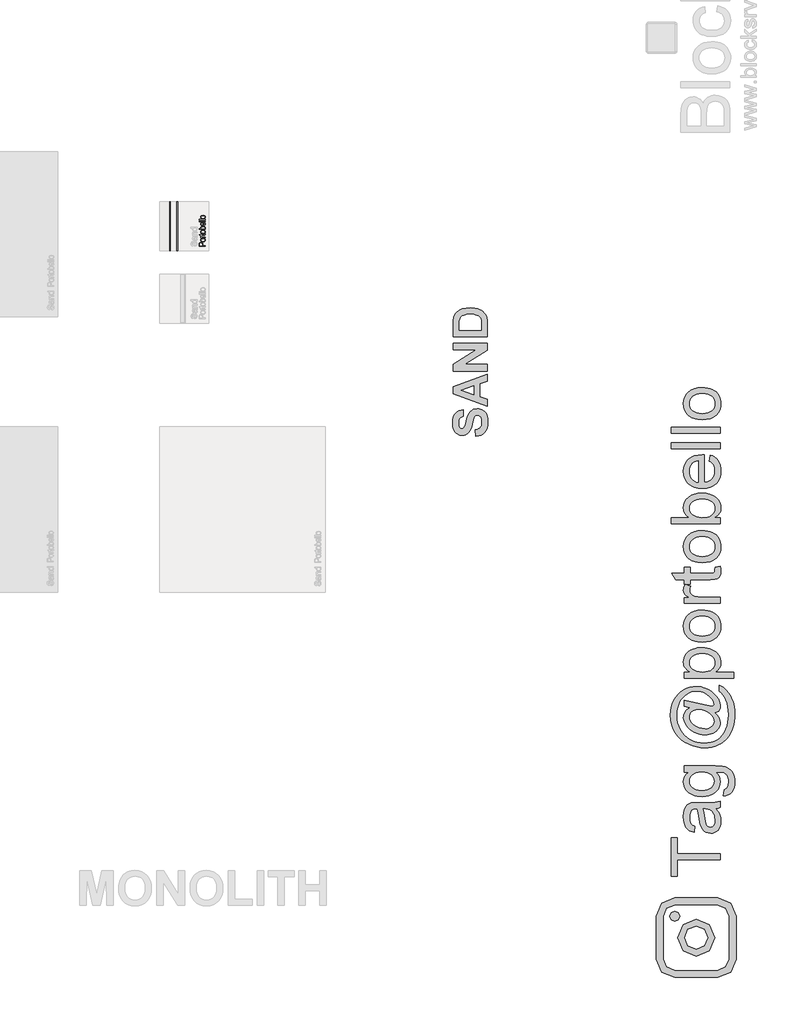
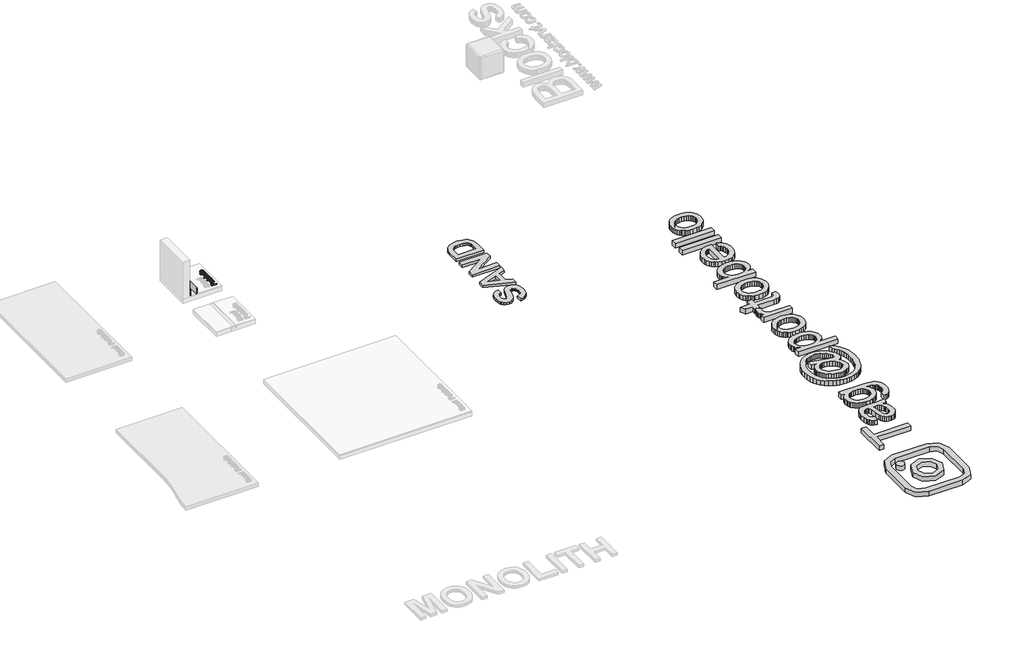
# One storey, part 5 of 6: 7 proxies.
"""IFC4 building model written with IfcOpenShell, lengths in millimetres."""

from ifc_helpers import new_model, si_unit, point, frame, frame_2d, origin, origin_with_axes, place, context, project, spatial, polyline, circle_curve, trimmed, segment, composite_curve, outline, extrude, transform, mapped, element, save
from components import generic_models_d67f6705, skirt_sand_19b2a7f1

model = new_model("IFC4")

# Units and contexts
model_context = context("Model", 3, world=origin())
ifc_project = project(units=[si_unit("LENGTHUNIT", "METRE", prefix="MILLI")], contexts=[model_context])

# Site, building, storey
site = spatial("IfcSite", under=ifc_project)
building = spatial("IfcBuilding", under=site)
storey = spatial("IfcBuildingStorey", under=building, Name="PORTOBELLO - SHOWROOM", Elevation=0.0)

# Proxies
placement = place(None, origin())
element("IfcBuildingElementProxy", 1, Name="RODAPÉ MONOLITH SKIRT SAND 15X60 EXT BOLD", ObjectType="RODAPÉ MONOLITH SKIRT SAND 15X60 EXT BOLD", at=placement, inside=storey, context=model_context, shape_type="SweptSolid", body=[
    extrude(outline(composite_curve([segment(polyline([(170.0, -7899.9813168), (20.0, -7899.9813168), (20.0, -7879.9813168), (154.0, -7879.9813168)]), True, "CONTINUOUS"), segment(trimmed(circle_curve(frame_2d((154.0, -7895.9813168)), 16.0), [point((154.0, -7879.9813168))], [point((170.0, -7895.9813168))], False, "CARTESIAN"), True, "CONTINUOUS"), segment(polyline([(170.0, -7895.9813168), (170.0, -7899.9813168)]), True, "CONTINUOUS")], self_intersect=False)), frame((0.0, -1412.608239, 0.0), z_axis=(0.0, 1.0, 0.0), x_axis=(0.0, 0.0, 1.0)), (0.0, 0.0, 1.0), 800.0),
])
generic_models_shape = generic_models_d67f6705(model_context)
element("IfcBuildingElementProxy", 2, Name="Blks_Instagram1 : Único", ObjectType="Blks_Instagram1 : Único", at=placement, inside=storey, context=model_context, shape_type="MappedRepresentation", body=[
    mapped(generic_models_shape, transform((709.5235049, -12631.2406298, 0.0), x_axis=(-1.0, 0.0, 0.0), y_axis=(0.0, -1.0, 0.0), z_axis=(0.0, 0.0, 1.0))),
])
element("IfcBuildingElementProxy", 3, Name="10mm Arial Narrow", ObjectType="10mm Arial Narrow", at=placement, inside=storey, context=model_context, shape_type="SweptSolid", body=[
    extrude(outline(polyline([(-7307.3219176, -1338.6202008), (-7408.0405213, -1338.6202008), (-7408.0405213, -1307.3233161), (-7406.1622006, -1291.0276146), (-7396.6817574, -1279.5546285), (-7379.6626486, -1275.26495), (-7367.5868231, -1277.0512584), (-7357.9604293, -1282.4101836), (-7351.6591709, -1292.1539725), (-7349.5587514, -1307.0948717), (-7349.5587514, -1328.8732391), (-7307.3219176, -1328.8732391), (-7307.3219176, -1338.6202008)]), holes=[polyline([(-7360.9302067, -1328.8732391), (-7360.9302067, -1305.9018842), (-7365.4610209, -1290.0376888), (-7379.1296116, -1285.0119117), (-7389.2953881, -1287.4867262), (-7395.0953379, -1293.464355), (-7396.6690661, -1306.1303286), (-7396.6690661, -1328.8732391), (-7360.9302067, -1328.8732391)])]), frame((0.0, 0.0, 20.0), z_axis=(0.0, 0.0, 1.0), x_axis=(1.0, 0.0, 0.0)), (0.0, 0.0, 1.0), 20.0),
    extrude(outline(polyline([(-7343.8730238, -1267.142482), (-7360.4637993, -1265.1880131), (-7372.4158841, -1259.3246065), (-7379.6404387, -1250.4660398), (-7382.0486236, -1239.5260906), (-7379.6404387, -1228.7130551), (-7372.4158841, -1219.8291056), (-7360.6541697, -1213.8895509), (-7344.6345052, -1211.9096993), (-7327.4726186, -1213.8546496), (-7315.3301634, -1219.6895007), (-7308.1056088, -1228.5385489), (-7305.697424, -1239.5260906), (-7308.1119545, -1250.3867188), (-7315.3555461, -1259.2611497), (-7327.3139766, -1265.1721489), (-7343.8730238, -1267.142482)]), holes=[polyline([(-7343.8984065, -1257.3955203), (-7331.3466551, -1256.0914835), (-7322.475397, -1252.1793729), (-7317.2021385, -1246.3381761), (-7315.4443856, -1239.2468808), (-7317.2180027, -1232.5268076), (-7322.5388538, -1226.8347343), (-7331.4259761, -1222.9511793), (-7343.8984065, -1221.6566609), (-7356.4120838, -1222.9606978), (-7365.2706505, -1226.8728084), (-7370.5439091, -1232.7140051), (-7372.3016619, -1239.8053005), (-7370.5343906, -1246.5729662), (-7365.2325765, -1252.255521), (-7356.3644912, -1256.1105205), (-7343.8984065, -1257.3955203)])]), frame((0.0, 0.0, 20.0), z_axis=(0.0, 0.0, 1.0), x_axis=(1.0, 0.0, 0.0)), (0.0, 0.0, 1.0), 20.0),
    extrude(outline(polyline([(-7315.4443856, -1140.4319805), (-7305.697424, -1138.8074869), (-7305.697424, -1146.1684736), (-7307.8168805, -1154.4432379), (-7313.6168303, -1158.758299), (-7328.2626555, -1159.9259038), (-7370.6771683, -1159.9259038), (-7370.6771683, -1168.0483719), (-7373.9261555, -1168.0483719), (-7369.0526747, -1169.6728655), (-7370.6771683, -1177.2369138), (-7368.3546501, -1183.3160735), (-7361.869367, -1187.1869372), (-7346.4620605, -1189.1667888), (-7307.3219176, -1189.1667888), (-7307.3219176, -1198.9137504), (-7380.42413, -1198.9137504), (-7380.42413, -1189.1667888), (-7370.7279338, -1189.1667888), (-7379.8149449, -1182.9226415), (-7382.0486236, -1176.5261979), (-7380.42413, -1168.0483719), (-7380.42413, -1159.9259038), (-7396.6690661, -1159.9259038), (-7404.7915341, -1150.1789422), (-7380.42413, -1150.1789422), (-7380.42413, -1140.4319805), (-7370.6771683, -1140.4319805), (-7370.6771683, -1150.1789422), (-7326.0289768, -1150.1789422), (-7318.0334223, -1149.3159299), (-7315.4443856, -1144.6962762), (-7315.4443856, -1140.4319805)])), frame((0.0, 0.0, 20.0), z_axis=(0.0, 0.0, 1.0), x_axis=(1.0, 0.0, 0.0)), (0.0, 0.0, 1.0), 20.0),
    extrude(outline(polyline([(-7343.8730238, -1133.9340061), (-7360.4637993, -1131.9795372), (-7372.4158841, -1126.1161306), (-7379.6404387, -1117.2575639), (-7382.0486236, -1106.3176147), (-7379.6404387, -1095.5045791), (-7372.4158841, -1086.6206297), (-7360.6541697, -1080.6810749), (-7344.6345052, -1078.7012234), (-7327.4726186, -1080.6461737), (-7315.3301634, -1086.4810248), (-7308.1056088, -1095.330073), (-7305.697424, -1106.3176147), (-7308.1119545, -1117.1782429), (-7315.3555461, -1126.0526738), (-7327.3139766, -1131.963673), (-7343.8730238, -1133.9340061)]), holes=[polyline([(-7343.8984065, -1124.1870444), (-7331.3466551, -1122.8830075), (-7322.475397, -1118.970897), (-7317.2021385, -1113.1297002), (-7315.4443856, -1106.0384049), (-7317.2180027, -1099.3183317), (-7322.5388538, -1093.6262584), (-7331.4259761, -1089.7427034), (-7343.8984065, -1088.448185), (-7356.4120838, -1089.7522219), (-7365.2706505, -1093.6643325), (-7370.5439091, -1099.5055292), (-7372.3016619, -1106.5968246), (-7370.5343906, -1113.3644903), (-7365.2325765, -1119.0470451), (-7356.3644912, -1122.9020446), (-7343.8984065, -1124.1870444)])]), frame((0.0, 0.0, 20.0), z_axis=(0.0, 0.0, 1.0), x_axis=(1.0, 0.0, 0.0)), (0.0, 0.0, 1.0), 20.0),
    extrude(outline(polyline([(-7307.3219176, -1055.9583128), (-7307.3219176, -1065.7052745), (-7408.0405213, -1065.7052745), (-7408.0405213, -1055.9583128), (-7372.6316372, -1055.9583128), (-7379.713414, -1048.5592521), (-7382.0486236, -1039.3580188), (-7377.8477847, -1026.4762921), (-7365.1183543, -1017.1989106), (-7344.4314435, -1013.721479), (-7327.9771, -1015.653738), (-7315.7743609, -1021.450515), (-7308.2166582, -1029.8236373), (-7305.697424, -1039.4849323), (-7308.3118434, -1048.8257706), (-7316.0789534, -1055.9583128), (-7307.3219176, -1055.9583128)]), holes=[polyline([(-7344.4314435, -1055.9583128), (-7327.1838902, -1053.8769304), (-7318.4522371, -1047.9881411), (-7315.4443856, -1039.5356978), (-7317.2338669, -1033.5929702), (-7322.6023106, -1028.3546128), (-7344.0253201, -1023.4684407), (-7365.4610209, -1028.1769339), (-7370.5915017, -1033.4216369), (-7372.3016619, -1039.7387595), (-7370.5121807, -1045.7163883), (-7365.143737, -1051.0086839), (-7344.4314435, -1055.9583128)])]), frame((0.0, 0.0, 20.0), z_axis=(0.0, 0.0, 1.0), x_axis=(1.0, 0.0, 0.0)), (0.0, 0.0, 1.0), 20.0),
    extrude(outline(polyline([(-7330.0648281, -961.7376835), (-7328.4403345, -951.9907219), (-7318.5537679, -955.6902522), (-7311.433917, -961.5092391), (-7307.1315472, -969.2128924), (-7305.697424, -978.566422), (-7308.1119545, -990.159976), (-7315.3555461, -999.3040982), (-7327.1616804, -1005.243653), (-7343.2638387, -1007.2235046), (-7359.9307624, -1005.2341345), (-7372.1112916, -999.2660242), (-7379.5642906, -990.2519883), (-7382.0486236, -979.1248417), (-7379.6499572, -968.4418925), (-7372.4539582, -959.6943752), (-7360.7144536, -953.8595241), (-7344.6852706, -951.9145737), (-7341.4362834, -951.9907219), (-7341.4362834, -997.4765429), (-7321.9931255, -991.4735314), (-7317.0815706, -985.5434951), (-7315.4443856, -978.4395084), (-7319.0994962, -968.2610407), (-7330.0648281, -961.7376835)]), holes=[polyline([(-7351.183245, -996.8165924), (-7351.183245, -961.7376835), (-7365.4483295, -966.0019792), (-7370.5883288, -971.8273118), (-7372.3016619, -979.0486935), (-7366.5905516, -991.2577783), (-7351.183245, -996.8165924)])]), frame((0.0, 0.0, 20.0), z_axis=(0.0, 0.0, 1.0), x_axis=(1.0, 0.0, 0.0)), (0.0, 0.0, 1.0), 20.0),
    extrude(outline(polyline([(-7307.3219176, -938.994773), (-7408.0405213, -938.994773), (-7408.0405213, -929.2478113), (-7307.3219176, -929.2478113), (-7307.3219176, -938.994773)])), frame((0.0, 0.0, 20.0), z_axis=(0.0, 0.0, 1.0), x_axis=(1.0, 0.0, 0.0)), (0.0, 0.0, 1.0), 20.0),
    extrude(outline(polyline([(-7307.3219176, -913.0028753), (-7408.0405213, -913.0028753), (-7408.0405213, -903.2559136), (-7307.3219176, -903.2559136), (-7307.3219176, -913.0028753)])), frame((0.0, 0.0, 20.0), z_axis=(0.0, 0.0, 1.0), x_axis=(1.0, 0.0, 0.0)), (0.0, 0.0, 1.0), 20.0),
    extrude(outline(polyline([(-7343.8730238, -891.8844583), (-7360.4637993, -889.9299895), (-7372.4158841, -884.0665828), (-7379.6404387, -875.2080161), (-7382.0486236, -864.268067), (-7379.6404387, -853.4550314), (-7372.4158841, -844.571082), (-7360.6541697, -838.6315272), (-7344.6345052, -836.6516756), (-7327.4726186, -838.596626), (-7315.3301634, -844.4314771), (-7308.1056088, -853.2805253), (-7305.697424, -864.268067), (-7308.1119545, -875.1286952), (-7315.3555461, -884.0031261), (-7327.3139766, -889.9141253), (-7343.8730238, -891.8844583)]), holes=[polyline([(-7343.8984065, -882.1374967), (-7331.3466551, -880.8334598), (-7322.475397, -876.9213492), (-7317.2021385, -871.0801525), (-7315.4443856, -863.9888571), (-7317.2180027, -857.268784), (-7322.5388538, -851.5767107), (-7331.4259761, -847.6931556), (-7343.8984065, -846.3986373), (-7356.4120838, -847.7026741), (-7365.2706505, -851.6147847), (-7370.5439091, -857.4559815), (-7372.3016619, -864.5472768), (-7370.5343906, -871.3149426), (-7365.2325765, -876.9974974), (-7356.3644912, -880.8524969), (-7343.8984065, -882.1374967)])]), frame((0.0, 0.0, 20.0), z_axis=(0.0, 0.0, 1.0), x_axis=(1.0, 0.0, 0.0)), (0.0, 0.0, 1.0), 20.0),
])
element("IfcBuildingElementProxy", 4, Name="550mm Arial", ObjectType="550mm Arial", at=placement, inside=storey, context=model_context, shape_type="SweptSolid", body=[
    extrude(outline(polyline([(-2886.8056867, -4446.5908802), (-2895.7127132, -4339.7065621), (-2869.9832362, -4333.2350506), (-2847.9070319, -4324.1192657), (-2829.4841001, -4312.3592073), (-2814.7144409, -4297.9548753), (-2803.3892959, -4280.8627786), (-2795.2999066, -4261.0394256), (-2790.446273, -4238.4848165), (-2788.8283951, -4213.1989512), (-2790.2592602, -4186.6257422), (-2794.5518555, -4163.549237), (-2801.706181, -4143.9694356), (-2811.7222367, -4127.8863379), (-2823.6519113, -4115.3434354), (-2836.5470938, -4106.3842193), (-2850.4077839, -4101.0086896), (-2865.2339819, -4099.2168464), (-2883.4133621, -4102.1916541), (-2898.7049174, -4111.1160771), (-2911.6305438, -4127.4862176), (-2922.7121373, -4152.7981777), (-2946.5105988, -4245.4869223), (-2958.1227866, -4288.5085562), (-2971.1093009, -4324.6063687), (-2985.4701415, -4353.7803598), (-3001.2053084, -4376.0305296), (-3025.5691573, -4399.1070348), (-3052.4555039, -4415.5902528), (-3081.8643483, -4425.4801836), (-3113.7956904, -4428.7768272), (-3155.1298602, -4422.7228326), (-3193.6805843, -4404.5608488), (-3211.1554049, -4391.1133264), (-3226.4208654, -4374.9867374), (-3239.4769657, -4356.1810818), (-3250.323706, -4334.6963597), (-3264.9367964, -4284.3507841), (-3269.8078265, -4224.6110789), (-3266.772131, -4175.1918689), (-3257.6650443, -4132.2876616), (-3242.4865665, -4095.8984571), (-3221.2366976, -4066.0242554), (-3194.9244367, -4042.5693755), (-3164.5587828, -4025.4381366), (-3130.1397361, -4014.6305385), (-3091.6672964, -4010.1465813), (-3091.6672964, -4117.0308994), (-3128.3913842, -4128.8431474), (-3142.2520744, -4137.9719798), (-3153.111862, -4149.2492843), (-3161.3012814, -4163.1447676), (-3167.1508667, -4180.128136), (-3171.8305349, -4223.3585283), (-3166.8551256, -4268.8678669), (-3160.6358639, -4287.4473675), (-3151.9288976, -4303.2434223), (-3136.9678765, -4317.2302374), (-3117.6925144, -4321.8925091), (-3099.4957376, -4317.6477542), (-3084.1519928, -4304.9134898), (-3075.2406171, -4290.2786537), (-3066.1813709, -4267.9458505), (-3047.6192668, -4200.1863422), (-3028.3091117, -4127.8689414), (-3008.0943367, -4077.2276247), (-2983.6174104, -4041.7386909), (-2951.5208012, -4014.8784391), (-2932.5150854, -4005.0146031), (-2911.4043888, -3997.969006), (-2862.868053, -3992.3325283), (-2839.313143, -3993.9982466), (-2816.5236807, -3998.9954016), (-2794.4996659, -4007.3239933), (-2773.2410987, -4018.9840217), (-2753.7047886, -4033.692793), (-2736.8475451, -4051.1676135), (-2722.6693681, -4071.4084833), (-2711.1702578, -4094.4154024), (-2702.2806278, -4120.3057973), (-2695.9308921, -4149.1970947), (-2690.8511035, -4215.982397), (-2693.9781309, -4265.9278523), (-2703.359213, -4309.7149338), (-2718.9943499, -4347.3436414), (-2740.8835415, -4378.8139753), (-2768.7658398, -4404.3433921), (-2802.3802968, -4424.1493485), (-2841.7269124, -4438.2318446), (-2886.8056867, -4446.5908802)])), origin_with_axes(), (0.0, 0.0, 1.0), 50.0),
    extrude(outline(polyline([(-2699.75813, -3431.1898583), (-2699.75813, -3543.5018957), (-2824.4565011, -3587.4803391), (-2824.4565011, -3799.3005632), (-2699.75813, -3842.7223174), (-2699.75813, -3956.7044223), (-3260.9008, -3752.1211572), (-3260.9008, -3637.99988), (-2699.75813, -3431.1898583)]), holes=[polyline([(-2922.4337927, -3621.7167222), (-3127.2954024, -3693.9471403), (-2922.4337927, -3765.2033523), (-2922.4337927, -3621.7167222)])]), origin_with_axes(), (0.0, 0.0, 1.0), 50.0),
    extrude(outline(polyline([(-2699.75813, -3377.7476993), (-3260.9008, -3377.7476993), (-3260.9008, -3265.7140065), (-2883.1872072, -3030.3736655), (-3260.9008, -3030.3736655), (-3260.9008, -2923.4893474), (-2699.75813, -2923.4893474), (-2699.75813, -3039.0023474), (-3071.9048313, -3270.8633812), (-2699.75813, -3270.8633812), (-2699.75813, -3377.7476993)])), origin_with_axes(), (0.0, 0.0, 1.0), 50.0),
    extrude(outline(polyline([(-3260.9008, -2816.6050293), (-3260.9008, -2608.8208015), (-3258.2217334, -2546.8891329), (-3250.1845337, -2501.6581389), (-3241.4732183, -2477.7726947), (-3229.9523622, -2455.6616973), (-3215.6219656, -2435.3251465), (-3198.4820283, -2416.7630425), (-3157.2174446, -2385.6406393), (-3107.6025235, -2362.9729527), (-3047.5322842, -2349.1427065), (-2974.9017457, -2344.5326244), (-2910.4649759, -2348.8469653), (-2855.4919216, -2361.7899882), (-2826.335327, -2373.4978571), (-2800.1013505, -2387.4672756), (-2776.7899921, -2403.6982438), (-2756.4012517, -2422.1907617), (-2730.8631367, -2456.9142479), (-2711.5877746, -2502.0756557), (-2702.7155412, -2546.019306), (-2699.75813, -2602.6972208), (-2699.75813, -2816.6050293), (-3260.9008, -2816.6050293)]), holes=[polyline([(-3162.9235084, -2709.7207112), (-2797.7354216, -2709.7207112), (-2797.7354216, -2618.7020341), (-2799.0575584, -2574.7235907), (-2803.0239686, -2544.9407208), (-2812.0875639, -2517.819521), (-2825.9178102, -2495.7433166), (-2847.3329462, -2477.9814532), (-2879.1512108, -2463.8032762), (-2922.9208957, -2454.5135259), (-2980.1902927, -2451.4169425), (-3036.6594491, -2454.5135259), (-3078.3067566, -2463.8032762), (-3108.7854879, -2478.6425215), (-3131.7489157, -2498.3875901), (-3147.8233151, -2523.595171), (-3157.6349614, -2554.8219533), (-3161.6013717, -2592.6420229), (-3162.9235084, -2654.8868293), (-3162.9235084, -2709.7207112)])]), origin_with_axes(), (0.0, 0.0, 1.0), 50.0),
])
element("IfcBuildingElementProxy", 5, Name="80mm Arial", ObjectType="80mm Arial", at=placement, inside=storey, context=model_context, shape_type="SweptSolid", body=[
    extrude(outline(polyline([(1101.2364896, -11363.1133966), (401.7713786, -11363.1133966), (401.7713786, -11625.4128133), (301.8477913, -11625.4128133), (301.8477913, -11000.8903927), (401.7713786, -11000.8903927), (401.7713786, -11263.1898093), (1101.2364896, -11263.1898093), (1101.2364896, -11363.1133966)])), origin_with_axes(), (0.0, 0.0, 1.0), 100.0),
    extrude(outline(polyline([(1026.2937991, -10526.2533531), (1067.2292922, -10573.9951647), (1082.3910377, -10598.3966706), (1094.0154491, -10623.1519099), (1108.7990658, -10674.8457774), (1113.726938, -10730.198956), (1110.7628961, -10774.6900796), (1101.8707702, -10813.7044344), (1087.0505604, -10847.2420202), (1066.3022667, -10875.3028372), (1040.9432411, -10897.4599656), (1012.2908355, -10913.286486), (980.3450499, -10922.7823982), (945.1058845, -10925.9477022), (903.6824833, -10921.1662025), (866.0647656, -10906.8217031), (833.8628283, -10884.6950689), (808.6867682, -10856.5671646), (789.6583507, -10823.511388), (775.8993411, -10786.6011371), (760.8717704, -10700.1438145), (745.0635466, -10597.9758498), (726.5230373, -10526.8388428), (704.274426, -10526.2533531), (680.0497868, -10527.9732293), (659.6796219, -10533.1328579), (643.1639313, -10541.7322388), (630.5027151, -10553.7713722), (617.8658942, -10574.5806544), (608.8395936, -10599.9274824), (603.4238133, -10629.811856), (601.6185531, -10664.2337754), (606.4244483, -10723.7585686), (612.4318173, -10746.7878328), (620.8421339, -10765.3283422), (632.3140741, -10780.5632739), (647.5063138, -10793.6758052), (666.4188531, -10804.6659361), (689.051692, -10813.5336665), (676.5612436, -10913.4572538), (621.9155318, -10896.1121194), (598.9838492, -10884.237655), (578.9796154, -10870.2285925), (561.5003062, -10853.4811456), (546.1433975, -10833.3915279), (532.9088892, -10809.9597394), (521.7967813, -10783.1857802), (506.7204197, -10721.7825406), (501.6949658, -10651.3530004), (506.1349299, -10583.8021183), (519.4548222, -10530.2541998), (539.4834514, -10489.8798011), (564.0496263, -10461.8494784), (594.4219081, -10443.2601783), (631.8688579, -10431.2088472), (666.4127543, -10427.5495361), (719.3019968, -10426.3297658), (843.6209911, -10426.3297658), (951.912203, -10425.0612046), (1017.2187077, -10421.2555211), (1060.1302287, -10413.7417357), (1101.2364896, -10401.3488689), (1101.2364896, -10501.2724562), (1066.49743, -10517.2758433), (1026.2937991, -10526.2533531)]), holes=[polyline([(826.4466245, -10526.2533531), (843.0842922, -10593.3895133), (857.0872558, -10687.4582029), (864.7474136, -10739.2984429), (873.2858061, -10773.4276173), (884.3613209, -10795.7982056), (899.6328457, -10812.362687), (917.929401, -10822.608758), (938.0800072, -10826.0241149), (953.6076838, -10824.1639652), (967.793613, -10818.5835158), (980.6377948, -10809.2827669), (992.1402293, -10796.2617183), (1001.6178449, -10779.6423473), (1008.3875704, -10759.5466307), (1013.8033507, -10708.9261611), (1007.826476, -10655.2562656), (1000.3553826, -10630.7632769), (989.8958518, -10607.8315943), (963.475626, -10569.3844327), (932.0299463, -10542.6470666), (899.6328457, -10530.7908988), (854.7452967, -10526.8388428), (826.4466245, -10526.2533531)])]), origin_with_axes(), (0.0, 0.0, 1.0), 100.0),
    extrude(outline(polyline([(1151.1982832, -10313.9157301), (1163.6887317, -10213.9921428), (1180.5215625, -10209.7717374), (1194.9148527, -10202.9654188), (1206.8686021, -10193.5731871), (1216.3828109, -10181.5950422), (1226.1165783, -10162.2128913), (1233.0692693, -10139.5861513), (1238.6314221, -10084.5989038), (1237.0579184, -10053.3971781), (1232.3374071, -10025.9523452), (1224.4698883, -10002.264405), (1213.455362, -9982.3333574), (1199.5987708, -9965.7444806), (1183.2050573, -9952.0830526), (1164.2742214, -9941.3490735), (1142.8062632, -9933.5425433), (1099.821556, -9928.1267629), (1026.2937991, -9926.7118293), (1059.0812262, -9959.9627691), (1082.500817, -9997.0681832), (1096.5525714, -10038.0280717), (1101.2364896, -10082.8424345), (1095.7841161, -10137.6284198), (1079.4269957, -10185.8642384), (1067.1591554, -10207.5258352), (1052.1651283, -10227.5498902), (1013.998514, -10262.6853753), (968.2083349, -10290.5632267), (918.0757734, -10310.4759777), (863.6008295, -10322.4236283), (804.7835031, -10326.4061785), (763.6345502, -10324.6192149), (724.107892, -10319.2583242), (686.2035282, -10310.3235064), (649.9214591, -10297.8147614), (616.4692572, -10281.9211537), (587.0544951, -10262.8317477), (561.6771729, -10240.5465434), (540.3372906, -10215.0655407), (523.4312735, -10186.7973628), (511.355547, -10156.1506326), (504.1101111, -10123.1253503), (501.6949658, -10087.7215159), (507.159537, -10040.9921136), (523.5532506, -9998.5806985), (550.8761065, -9960.4872704), (589.1281047, -9926.7118293), (514.1854143, -9926.7118293), (514.1854143, -9826.788242), (1021.0243912, -9826.788242), (1084.5317346, -9828.4959205), (1138.0491588, -9833.618956), (1181.5766639, -9842.1573485), (1215.1142497, -9854.1110979), (1242.1626573, -9869.7668504), (1266.2226275, -9889.4112519), (1287.2941603, -9913.0443025), (1305.3772558, -9940.6660021), (1319.892523, -9971.9958036), (1330.260571, -10006.7531598), (1336.4813998, -10044.9380707), (1338.5550094, -10086.5505363), (1335.6336594, -10135.5060194), (1326.8696094, -10179.5214326), (1312.2628595, -10218.5967759), (1291.8134095, -10252.7320492), (1265.4968641, -10280.304958), (1233.288828, -10299.6932078), (1195.189301, -10310.8967984), (1151.1982832, -10313.9157301)]), holes=[polyline([(797.9527891, -10226.4825912), (847.3595872, -10223.817393), (889.6063334, -10215.8217983), (924.6930276, -10202.4958072), (952.6196698, -10183.8394197), (973.922959, -10161.1577899), (989.1395942, -10135.7560724), (998.2695753, -10107.6342669), (1001.3129023, -10076.7923735), (998.2878718, -10046.2554227), (989.2127804, -10018.267792), (974.087628, -9992.8294813), (952.9124147, -9969.9404906), (925.2602208, -9951.0279513), (890.7041267, -9937.5189946), (849.2441324, -9929.4136206), (800.880238, -9926.7118293), (754.5350634, -9929.4929057), (714.2521475, -9937.8361349), (680.0314903, -9951.7415169), (651.8730917, -9971.2090518), (629.8867311, -9994.5920494), (614.1821878, -10020.24382), (604.7594618, -10048.1643633), (601.6185531, -10078.3536796), (604.710671, -10108.0367911), (613.9870245, -10135.4145367), (629.4476137, -10160.4869163), (651.0924386, -10183.2539299), (678.8239176, -10202.1664692), (712.544469, -10215.6754259), (752.2540928, -10223.7807999), (797.9527891, -10226.4825912)])]), origin_with_axes(), (0.0, 0.0, 1.0), 100.0),
])
element("IfcBuildingElementProxy", 6, Name="80mm Arial", ObjectType="80mm Arial", at=placement, inside=storey, context=model_context, shape_type="SweptSolid", body=[
    extrude(outline(polyline([(1009.7049223, -8955.7052888), (1047.0054997, -8992.9570753), (1076.1580111, -9034.4536627), (1094.96687, -9078.1458368), (1101.2364896, -9121.9843833), (1099.4434272, -9145.9162776), (1094.0642399, -9169.5066362), (1085.0989278, -9192.7554591), (1072.5474909, -9215.6627463), (1056.2757544, -9237.3319667), (1036.1495436, -9256.8665889), (1012.1688584, -9274.2666129), (984.333699, -9289.5320389), (953.8394402, -9301.9553999), (921.8814569, -9310.8292293), (888.4597493, -9316.1535268), (853.5743172, -9317.9282927), (809.7357707, -9315.1777106), (765.8484334, -9306.9259641), (721.9123053, -9293.1730534), (677.9273864, -9273.9189784), (636.6625554, -9250.5725738), (600.8866909, -9224.5426745), (570.5997931, -9195.8292804), (545.8018618, -9164.4323915), (526.5050948, -9131.9316105), (512.7216898, -9099.9065399), (504.4516468, -9068.3571797), (501.6949658, -9037.28353), (503.2623707, -9014.120091), (507.9645855, -8991.4689555), (526.7734443, -8947.7035953), (540.9532746, -8927.0772786), (558.4142872, -8907.9390818), (603.1798592, -8874.1270476), (514.1854143, -8855.7817015), (514.1854143, -8755.8581142), (880.7020098, -8838.6073349), (965.2076999, -8855.7817015), (978.9911049, -8852.9762297), (990.6765048, -8844.5598142), (998.6538029, -8832.1913429), (1001.3129023, -8817.5297032), (999.3368743, -8801.8556542), (993.4087904, -8783.9128323), (969.6964548, -8741.22087), (947.3319653, -8711.6231423), (921.4179442, -8685.2822016), (891.9543913, -8662.1980477), (858.9413067, -8642.3706806), (823.879008, -8626.4465786), (788.2678125, -8615.0722201), (752.1077204, -8608.247605), (715.3987316, -8605.9727332), (672.9751188, -8608.9001821), (631.9664395, -8617.6825286), (592.3726939, -8632.3197729), (554.1938818, -8652.8119148), (518.5948841, -8679.1162624), (486.7405813, -8711.1901239), (458.6309735, -8749.0334991), (434.2660607, -8792.646388), (414.5850661, -8840.3577054), (400.5272128, -8890.4963657), (392.0925008, -8943.0623691), (389.2809301, -8998.0557154), (392.8487584, -9060.7885047), (403.5522433, -9120.7646129), (421.3913847, -9177.9840401), (446.3661826, -9232.4467864), (478.0009267, -9282.5427548), (515.8199065, -9326.6618484), (559.823122, -9364.8040674), (610.0105732, -9396.9694116), (664.241563, -9422.499205), (720.3753947, -9440.7347718), (778.4120681, -9451.6761119), (838.3515832, -9455.3232252), (900.0414688, -9451.712705), (957.2791926, -9440.8811443), (1010.0647546, -9422.828543), (1058.3981548, -9397.5549013), (1101.4926414, -9365.4444468), (1138.5614624, -9326.8814071), (1169.6046179, -9281.8657822), (1194.6221078, -9230.3975722), (1213.8761828, -9174.2332463), (1227.6290935, -9115.1292739), (1235.88084, -9053.0856549), (1238.6314221, -8988.1023893), (1235.8991365, -8919.8562381), (1227.7022798, -8857.3917983), (1214.0408518, -8800.7090701), (1194.9148527, -8749.8080532), (1171.8855884, -8704.8107249), (1146.5143651, -8665.8390622), (1118.8011827, -8632.8930649), (1088.7460412, -8605.9727332), (1088.7460412, -8506.049146), (1118.0571228, -8522.2781905), (1147.6365538, -8543.447305), (1177.4843343, -8569.5564894), (1207.6004644, -8600.6057437), (1236.2711665, -8635.7168333), (1261.7826634, -8674.0115235), (1284.1349551, -8715.4898144), (1303.3280416, -8760.1517058), (1318.73984, -8808.7717521), (1329.7482675, -8862.1245073), (1336.3533239, -8920.2099715), (1338.5550094, -8983.0281447), (1336.6094757, -9041.8759653), (1330.7728746, -9098.3940246), (1321.045206, -9152.5823225), (1307.42647, -9204.4408591), (1289.9105678, -9253.2621675), (1268.4914004, -9298.3387808), (1243.1689678, -9339.6706992), (1213.9432702, -9377.2579227), (1181.5766639, -9410.7650143), (1146.8315054, -9439.8565372), (1109.7077947, -9464.5324914), (1070.2055318, -9484.792877), (1017.657825, -9504.6873314), (963.060904, -9518.897656), (906.4147689, -9527.4238508), (847.7194195, -9530.2659157), (781.9615998, -9526.8749541), (717.7894815, -9516.7020694), (655.2030647, -9499.7472615), (594.2023494, -9476.0105304), (524.6571427, -9439.5515946), (463.7601079, -9396.1399677), (411.5112448, -9345.7756499), (367.9105536, -9288.458641), (333.5435239, -9224.4328952), (308.9956455, -9153.9423665), (294.2669185, -9076.9870549), (289.3573428, -8993.5669605), (292.7970952, -8928.1384788), (303.1163524, -8866.1253541), (320.3151144, -8807.5275863), (344.3933812, -8752.3451756), (375.2901642, -8701.6881128), (412.944475, -8656.6663891), (457.3563135, -8617.2800044), (508.5256798, -8583.5289588), (556.4016662, -8560.560683), (606.3512621, -8544.1547718), (658.3744676, -8534.311225), (712.4712828, -8531.0300428), (751.2020409, -8532.7316224), (788.8411046, -8537.8363613), (825.3884738, -8546.3442596), (860.8441485, -8558.2553171), (895.2081288, -8573.5695338), (928.4804145, -8592.2869099), (960.6610059, -8614.4074452), (991.7499027, -8639.9311399), (1039.6502845, -8689.7465611), (1073.8648429, -8741.8063597), (1085.8399383, -8768.6779006), (1094.3935779, -8796.1105358), (1099.5257617, -8824.1042654), (1101.2364896, -8852.6590894), (1098.3578316, -8885.9832154), (1089.7218575, -8912.1838826), (1075.7676846, -8931.8465807), (1056.9344304, -8945.5567994), (1038.1987578, -8951.6068604), (1009.7049223, -8955.7052888)]), holes=[polyline([(855.1356232, -9218.0047054), (887.8498641, -9215.8152176), (916.7096306, -9209.2467543), (941.7149229, -9198.2993154), (962.8657408, -9182.9729009), (979.686374, -9164.8166192), (991.7011119, -9145.3795786), (998.9099547, -9124.6617792), (1001.3129023, -9102.6632209), (997.0681015, -9071.6078677), (984.333699, -9038.9424176), (963.2560673, -9006.2281768), (933.9815788, -8975.0264512), (896.1199071, -8947.3376642), (849.2807255, -8925.1622391), (797.8552075, -8910.5981811), (746.2345262, -8905.7434951), (713.8069313, -8908.0183668), (685.2216131, -8914.842982), (660.4785715, -8926.2173405), (639.5778065, -8942.1414425), (622.9706332, -8961.334529), (611.1083665, -8982.5158411), (603.9910065, -9005.685379), (601.6185531, -9030.8431425), (605.7413769, -9064.3624318), (618.1098483, -9095.8325069), (639.5778065, -9125.8144622), (670.9990908, -9154.869392), (711.3246987, -9180.6309418), (759.5056276, -9200.7327572), (809.4674212, -9213.6867184), (855.1356232, -9218.0047054)])]), origin_with_axes(), (0.0, 0.0, 1.0), 100.0),
    extrude(outline(polyline([(1326.064561, -8393.6351103), (514.1854143, -8393.6351103), (514.1854143, -8293.711523), (612.157369, -8293.711523), (563.8300676, -8261.1192591), (544.8443421, -8243.3594028), (529.3105666, -8224.6237302), (517.2287413, -8204.3755423), (508.598866, -8182.0781403), (503.4209409, -8157.731524), (501.6949658, -8131.3356936), (504.1101111, -8096.4868546), (511.355547, -8063.7604161), (523.4312735, -8033.1563779), (540.3372906, -8004.6747402), (561.634481, -7978.9375857), (586.8837273, -7956.5669975), (616.0850295, -7937.5629754), (649.2383877, -7921.9255195), (685.2094154, -7909.7156182), (722.8637262, -7900.9942602), (762.2013201, -7895.7614454), (803.222197, -7894.0171738), (847.0790401, -7895.9871029), (888.6793079, -7901.8968903), (928.0230007, -7911.7465359), (965.1101182, -7925.5360397), (998.9709432, -7943.0763374), (1028.6357582, -7964.1783645), (1054.1045632, -7988.842121), (1075.3773581, -8017.067607), (1092.1552993, -8047.470383), (1104.139543, -8078.6660098), (1111.3300893, -8110.6544873), (1113.726938, -8143.4358155), (1112.12294, -8167.0200753), (1107.310946, -8189.372367), (1099.2909559, -8210.4926906), (1088.0629698, -8230.3810462), (1059.00804, -8265.486037), (1023.171187, -8293.711523), (1326.064561, -8293.711523), (1326.064561, -8393.6351103)]), holes=[polyline([(812.3948701, -8293.711523), (860.5514036, -8291.0097316), (901.9748048, -8282.9043576), (936.6650736, -8269.395401), (964.6222101, -8250.4828617), (986.1389591, -8227.715848), (1001.5080656, -8202.6434684), (1010.7295294, -8175.2657229), (1013.8033507, -8145.5826113), (1010.6197501, -8115.4725802), (1001.0689482, -8087.5947288), (985.1509451, -8061.9490571), (962.8657408, -8038.5355652), (933.8961949, -8019.0253384), (897.9251672, -8005.0894621), (854.9526577, -7996.7279363), (804.9786663, -7993.9407611), (757.2368547, -7996.660849), (715.8866398, -8004.8211126), (680.9280215, -8018.4215521), (652.3609998, -8037.4621673), (630.1611794, -8060.2840706), (614.3041648, -8085.2283743), (604.7899561, -8112.2950784), (601.6185531, -8141.4841829), (604.9912182, -8170.5818047), (615.1092132, -8197.9595503), (631.9725384, -8223.6174196), (655.5811935, -8247.5554128), (685.6180385, -8267.748711), (721.7659329, -8282.1724954), (764.0248767, -8290.8267661), (812.3948701, -8293.711523)])]), origin_with_axes(), (0.0, 0.0, 1.0), 100.0),
    extrude(outline(polyline([(807.7109519, -7806.5840349), (731.6826658, -7801.1804522), (697.6114305, -7794.4259739), (666.1688002, -7784.9697043), (637.354775, -7772.8116433), (611.169355, -7757.9517909), (587.6125401, -7740.3901473), (566.6843302, -7720.1267123), (538.2514833, -7682.0454819), (517.9423069, -7640.0121955), (505.7568011, -7594.0268532), (501.6949658, -7544.089455), (506.6411346, -7488.9619339), (521.479641, -7439.1160185), (546.2104849, -7394.5517086), (580.8336663, -7355.2690044), (624.1782058, -7323.2073407), (675.0731238, -7300.3061523), (733.5184202, -7286.5654393), (799.5140952, -7281.9852016), (853.0010251, -7284.0100204), (900.4622895, -7290.0844768), (941.8978884, -7300.2085707), (977.3078218, -7314.3823022), (1007.8935634, -7332.4288046), (1034.856587, -7354.1712111), (1058.1968927, -7379.6095218), (1077.9144805, -7408.7437367), (1093.5824306, -7440.4394693), (1104.7738236, -7473.5623332), (1111.4886594, -7508.1123285), (1113.726938, -7544.089455), (1108.7990658, -7600.0220245), (1094.0154491, -7650.3314527), (1069.376088, -7695.0177396), (1034.8809824, -7734.0808851), (991.1156222, -7765.8010132), (938.665497, -7788.4582475), (877.5306069, -7802.052588), (807.7109519, -7806.5840349)]), holes=[polyline([(807.5157887, -7706.6604476), (855.9833636, -7703.7695919), (897.9495626, -7695.0970247), (933.4143856, -7680.642746), (962.3778326, -7660.4067558), (984.8764968, -7635.7917901), (1000.9469712, -7608.2005847), (1010.5892558, -7577.6331397), (1013.8033507, -7544.089455), (1010.5709593, -7510.7165382), (1000.873785, -7480.2710702), (984.7118278, -7452.753051), (962.0850878, -7428.1624807), (932.8349947, -7407.9264905), (896.8029785, -7393.4722119), (853.9890391, -7384.7996446), (804.3931766, -7381.9087889), (757.4625122, -7384.8179412), (716.5941066, -7393.5453981), (681.7879596, -7408.0911595), (653.0440712, -7428.4552256), (630.545407, -7453.1372787), (614.4749327, -7480.6370013), (604.832648, -7510.9543934), (601.6185531, -7544.089455), (604.8204503, -7577.6331397), (614.4261418, -7608.2005847), (630.4356277, -7635.7917901), (652.8489079, -7660.4067558), (681.726971, -7680.642746), (717.1308055, -7695.0970247), (759.0604114, -7703.7695919), (807.5157887, -7706.6604476)])]), origin_with_axes(), (0.0, 0.0, 1.0), 100.0),
    extrude(outline(polyline([(1101.2364896, -7169.5711659), (514.1854143, -7169.5711659), (514.1854143, -7082.138027), (601.0330634, -7082.138027), (550.6809432, -7049.8385081), (533.2626226, -7034.6401695), (521.0161282, -7020.0761115), (506.5252564, -6990.2161333), (501.6949658, -6957.6238694), (503.622203, -6932.8381359), (509.4039145, -6907.857239), (519.0401003, -6882.681179), (532.5307604, -6857.3099556), (622.1106951, -6890.6828725), (606.7415886, -6925.8122586), (601.6185531, -6960.9416448), (606.5464254, -6990.7772276), (621.330042, -7017.4414075), (644.8472144, -7038.982552), (675.9757538, -7053.4490283), (731.7924452, -7065.5979411), (792.6833812, -7069.6475786), (1101.2364896, -7069.6475786), (1101.2364896, -7169.5711659)])), origin_with_axes(), (0.0, 0.0, 1.0), 100.0),
    extrude(outline(polyline([(1017.9017791, -6582.5200906), (1104.1639384, -6570.0296422), (1111.3361881, -6609.5989924), (1113.726938, -6644.7771694), (1109.5797188, -6692.7385396), (1097.1380612, -6728.5022064), (1077.9632713, -6753.7758481), (1053.616655, -6770.2671433), (1011.8029273, -6779.3422347), (940.226803, -6782.3672652), (614.1090015, -6782.3672652), (614.1090015, -6857.3099556), (514.1854143, -6857.3099556), (514.1854143, -6782.3672652), (371.5210738, -6782.3672652), (312.7769336, -6682.4436779), (514.1854143, -6682.4436779), (514.1854143, -6582.5200906), (614.1090015, -6582.5200906), (614.1090015, -6682.4436779), (937.2993542, -6682.4436779), (970.1843629, -6681.1263259), (988.8224539, -6677.1742699), (999.1417111, -6670.2703697), (1007.0702184, -6660.097485), (1012.1200676, -6645.6797994), (1013.8033507, -6626.0414968), (1017.9017791, -6582.5200906)])), origin_with_axes(), (0.0, 0.0, 1.0), 100.0),
    extrude(outline(polyline([(807.7109519, -6507.5774001), (731.6826658, -6502.1738174), (697.6114305, -6495.4193391), (666.1688002, -6485.9630695), (637.354775, -6473.8050085), (611.169355, -6458.9451561), (587.6125401, -6441.3835125), (566.6843302, -6421.1200775), (538.2514833, -6383.0388471), (517.9423069, -6341.0055607), (505.7568011, -6295.0202184), (501.6949658, -6245.0828202), (506.6411346, -6189.9552991), (521.479641, -6140.1093836), (546.2104849, -6095.5450738), (580.8336663, -6056.2623696), (624.1782058, -6024.2007059), (675.0731238, -6001.2995175), (733.5184202, -5987.5588045), (799.5140952, -5982.9785668), (853.0010251, -5985.0033856), (900.4622895, -5991.077842), (941.8978884, -6001.2019359), (977.3078218, -6015.3756674), (1007.8935634, -6033.4221697), (1034.856587, -6055.1645763), (1058.1968927, -6080.602887), (1077.9144805, -6109.7371019), (1093.5824306, -6141.4328345), (1104.7738236, -6174.5556984), (1111.4886594, -6209.1056936), (1113.726938, -6245.0828202), (1108.7990658, -6301.0153897), (1094.0154491, -6351.3248179), (1069.376088, -6396.0111048), (1034.8809824, -6435.0742503), (991.1156222, -6466.7943784), (938.665497, -6489.4516127), (877.5306069, -6503.0459532), (807.7109519, -6507.5774001)]), holes=[polyline([(807.5157887, -6407.6538128), (855.9833636, -6404.7629571), (897.9495626, -6396.0903899), (933.4143856, -6381.6361112), (962.3778326, -6361.400121), (984.8764968, -6336.7851553), (1000.9469712, -6309.1939499), (1010.5892558, -6278.6265049), (1013.8033507, -6245.0828202), (1010.5709593, -6211.7099034), (1000.873785, -6181.2644353), (984.7118278, -6153.7464162), (962.0850878, -6129.1558459), (932.8349947, -6108.9198557), (896.8029785, -6094.465577), (853.9890391, -6085.7930098), (804.3931766, -6082.9021541), (757.4625122, -6085.8113064), (716.5941066, -6094.5387633), (681.7879596, -6109.0845247), (653.0440712, -6129.4485908), (630.545407, -6154.1306439), (614.4749327, -6181.6303665), (604.832648, -6211.9477586), (601.6185531, -6245.0828202), (604.8204503, -6278.6265049), (614.4261418, -6309.1939499), (630.4356277, -6336.7851553), (652.8489079, -6361.400121), (681.726971, -6381.6361112), (717.1308055, -6396.0903899), (759.0604114, -6404.7629571), (807.5157887, -6407.6538128)])]), origin_with_axes(), (0.0, 0.0, 1.0), 100.0),
    extrude(outline(polyline([(1101.2364896, -5770.6409438), (1101.2364896, -5870.5645311), (301.8477913, -5870.5645311), (301.8477913, -5770.6409438), (598.3007778, -5770.6409438), (556.0357351, -5737.7803305), (525.8464188, -5700.6749164), (515.2801581, -5680.530409), (507.7328291, -5659.3247014), (501.6949658, -5613.7296856), (507.1351416, -5562.2553768), (523.4556689, -5513.6109351), (549.6319407, -5470.5774371), (584.6393498, -5435.935959), (628.1363606, -5408.783871), (679.7814373, -5388.2185428), (737.4277842, -5375.2645817), (798.9286054, -5370.9465946), (869.8948445, -5375.417053), (932.3226912, -5388.828428), (986.2121453, -5411.1807197), (1031.5632071, -5442.4739281), (1067.5098393, -5480.0367561), (1093.1860053, -5521.1979067), (1108.5917048, -5565.9573798), (1113.726938, -5614.3151754), (1112.0710998, -5638.5306663), (1107.103585, -5661.4105087), (1098.8243937, -5682.9547026), (1087.233526, -5703.1632479), (1072.3309817, -5722.0361447), (1054.1167609, -5739.5733929), (1007.7532898, -5770.6409438), (1101.2364896, -5770.6409438)]), holes=[polyline([(803.6125235, -5770.6409438), (848.646445, -5768.9332653), (886.947234, -5763.8102298), (918.5148908, -5755.2718374), (943.3494151, -5743.3180879), (974.173012, -5719.1056464), (996.1898668, -5690.9655444), (1009.3999797, -5658.8977818), (1013.8033507, -5622.9023587), (1010.5587616, -5593.0179851), (1000.8249942, -5565.2316164), (984.6020485, -5539.5432528), (961.8899245, -5515.9528942), (932.7496108, -5496.2292076), (897.2420958, -5482.14086), (855.3673796, -5473.6878515), (807.1254622, -5470.8701819), (757.9687169, -5473.5719733), (715.6914765, -5481.6773473), (680.2937409, -5495.1863039), (651.77551, -5514.0988432), (629.8318414, -5536.8414615), (614.1577924, -5561.8406548), (604.7533629, -5589.0964234), (601.6185531, -5618.6087671), (604.8631423, -5648.4931407), (614.5969097, -5676.2795093), (630.8198554, -5701.967873), (653.5319793, -5725.5582316), (682.3795482, -5745.2819182), (717.0088285, -5759.3702658), (757.4198203, -5767.8232743), (803.6125235, -5770.6409438)])]), origin_with_axes(), (0.0, 0.0, 1.0), 100.0),
    extrude(outline(polyline([(926.3702118, -4847.5187409), (938.8606602, -4749.5467862), (978.1006725, -4764.5682581), (1012.681162, -4784.8469402), (1042.6021287, -4810.3828325), (1067.8635727, -4841.1759351), (1087.9287951, -4876.9091075), (1102.2610967, -4917.2652097), (1110.8604777, -4962.2442414), (1113.726938, -5011.8462028), (1108.7807692, -5073.8471298), (1093.9422629, -5129.0905291), (1069.211419, -5177.5764006), (1034.5882375, -5219.3047444), (991.0363371, -5252.8606268), (939.5193362, -5276.8291142), (880.037235, -5291.2102067), (812.5900333, -5296.0039042), (742.8557623, -5291.1614159), (681.3915342, -5276.633951), (628.1973491, -5252.4215095), (604.7015227, -5236.6834225), (583.273207, -5218.5240914), (547.5827265, -5176.9055269), (522.0895261, -5129.5296464), (506.7936059, -5076.3964499), (501.6949658, -5017.5059372), (506.7814082, -4960.5121675), (522.0407353, -4908.9707713), (547.4729472, -4862.8817485), (583.0780438, -4822.2450992), (627.9046042, -4789.0734444), (681.0012077, -4765.3794053), (742.3678541, -4751.1629819), (812.0045436, -4746.4241741), (838.937073, -4747.0096638), (838.937073, -5196.0803169), (878.8113658, -5190.2925066), (913.733391, -5178.7839733), (943.7031485, -5161.554717), (968.7206385, -5138.6047379), (988.4443251, -5111.2025969), (1002.5326727, -5080.6168553), (1010.9856812, -5046.8475131), (1013.8033507, -5009.8945702), (1008.5827336, -4956.7125829), (992.9208823, -4911.9226155), (980.9305397, -4892.6746394), (965.8419805, -4875.5246682), (947.6552045, -4860.472702), (926.3702118, -4847.5187409)]), holes=[polyline([(739.0134857, -5196.0803169), (739.0134857, -4846.3477614), (710.7392089, -4851.4829945), (686.2218248, -4859.8628169), (665.4613334, -4871.4872283), (648.4577347, -4886.3562289), (627.9655928, -4913.6058986), (613.3283485, -4944.612461), (604.546002, -4979.375916), (601.6185531, -5017.8962638), (603.9544134, -5053.0317488), (610.961994, -5085.2519826), (622.6412952, -5114.5569654), (638.9923167, -5140.9466969), (659.2588012, -5163.0916277), (682.6844908, -5179.6622079), (709.2693856, -5190.6584377), (739.0134857, -5196.0803169)])]), origin_with_axes(), (0.0, 0.0, 1.0), 100.0),
    extrude(outline(polyline([(1101.2364896, -4646.5005868), (301.8477913, -4646.5005868), (301.8477913, -4546.5769995), (1101.2364896, -4546.5769995), (1101.2364896, -4646.5005868)])), origin_with_axes(), (0.0, 0.0, 1.0), 100.0),
    extrude(outline(polyline([(1101.2364896, -4396.6916185), (301.8477913, -4396.6916185), (301.8477913, -4296.7680312), (1101.2364896, -4296.7680312), (1101.2364896, -4396.6916185)])), origin_with_axes(), (0.0, 0.0, 1.0), 100.0),
    extrude(outline(polyline([(807.7109519, -4171.8635471), (731.6826658, -4166.4599645), (697.6114305, -4159.7054861), (666.1688002, -4150.2492165), (637.354775, -4138.0911555), (611.169355, -4123.2313032), (587.6125401, -4105.6696595), (566.6843302, -4085.4062245), (538.2514833, -4047.3249941), (517.9423069, -4005.2917078), (505.7568011, -3959.3063655), (501.6949658, -3909.3689672), (506.6411346, -3854.2414461), (521.479641, -3804.3955307), (546.2104849, -3759.8312208), (580.8336663, -3720.5485166), (624.1782058, -3688.4868529), (675.0731238, -3665.5856645), (733.5184202, -3651.8449515), (799.5140952, -3647.2647138), (853.0010251, -3649.2895326), (900.4622895, -3655.363989), (941.8978884, -3665.4880829), (977.3078218, -3679.6618144), (1007.8935634, -3697.7083168), (1034.856587, -3719.4507233), (1058.1968927, -3744.889034), (1077.9144805, -3774.0232489), (1093.5824306, -3805.7189815), (1104.7738236, -3838.8418454), (1111.4886594, -3873.3918407), (1113.726938, -3909.3689672), (1108.7990658, -3965.3015368), (1094.0154491, -4015.610965), (1069.376088, -4060.2972518), (1034.8809824, -4099.3603974), (991.1156222, -4131.0805254), (938.665497, -4153.7377597), (877.5306069, -4167.3321003), (807.7109519, -4171.8635471)]), holes=[polyline([(807.5157887, -4071.9399598), (855.9833636, -4069.0491041), (897.9495626, -4060.3765369), (933.4143856, -4045.9222582), (962.3778326, -4025.6862681), (984.8764968, -4001.0713023), (1000.9469712, -3973.480097), (1010.5892558, -3942.9126519), (1013.8033507, -3909.3689672), (1010.5709593, -3875.9960504), (1000.873785, -3845.5505824), (984.7118278, -3818.0325632), (962.0850878, -3793.4419929), (932.8349947, -3773.2060028), (896.8029785, -3758.7517241), (853.9890391, -3750.0791569), (804.3931766, -3747.1883011), (757.4625122, -3750.0974534), (716.5941066, -3758.8249103), (681.7879596, -3773.3706718), (653.0440712, -3793.7347378), (630.545407, -3818.4167909), (614.4749327, -3845.9165135), (604.832648, -3876.2339056), (601.6185531, -3909.3689672), (604.8204503, -3942.9126519), (614.4261418, -3973.480097), (630.4356277, -4001.0713023), (652.8489079, -4025.6862681), (681.726971, -4045.9222582), (717.1308055, -4060.3765369), (759.0604114, -4069.0491041), (807.5157887, -4071.9399598)])]), origin_with_axes(), (0.0, 0.0, 1.0), 100.0),
])
skirt_sand_shape = skirt_sand_19b2a7f1(model_context)
element("IfcBuildingElementProxy", 7, Name="PORTOBELLO - RODAPÉ MONOLITH SKIRT SAND 15X60 EXT BOLD (BASE NA LINHA) : SKIRT SAND", ObjectType="PORTOBELLO - RODAPÉ MONOLITH SKIRT SAND 15X60 EXT BOLD (BASE NA LINHA) : SKIRT SAND", at=placement, inside=storey, context=model_context, shape_type="MappedRepresentation", body=[
    mapped(skirt_sand_shape, transform((-7774.9813168, -1412.608239, 20.0), x_axis=(0.0, 1.0, 0.0), y_axis=(-1.0, 0.0, 0.0), z_axis=(0.0, 0.0, 1.0))),
])

save(model, "model.ifc")
